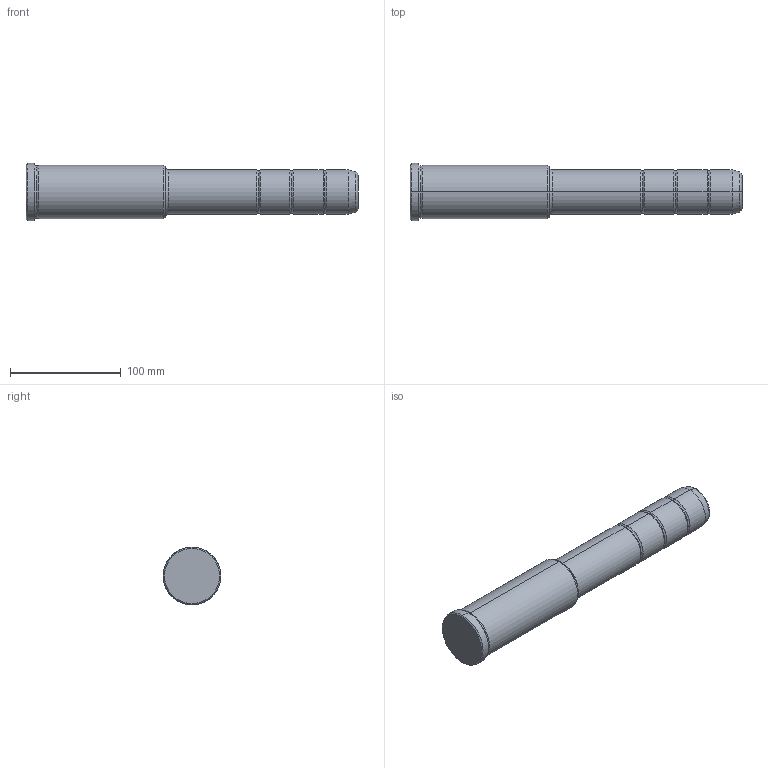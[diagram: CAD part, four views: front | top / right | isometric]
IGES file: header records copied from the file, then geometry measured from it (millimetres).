
Start section: START RECORD GO HERE.
Global section: file name: 351-40X126X300.igs; native system: DASSAULT SYSTEMES CATIA V5 R20 - www.3ds.com; preprocessor: CATIA Version 5 Release 20 ; author: Utente; organization: NB04-ASUS; date: 20211103.201112; units: millimetre
Bounding box: 300 x 52 x 52 mm (x, y, z)
Surface area: 44749.4 mm2 (no closed solid volume)
Topology: 0 solids, 0 shells, 42 faces, 236 edges, 236 vertices
Faces by surface type: revolution 38, plane 4
